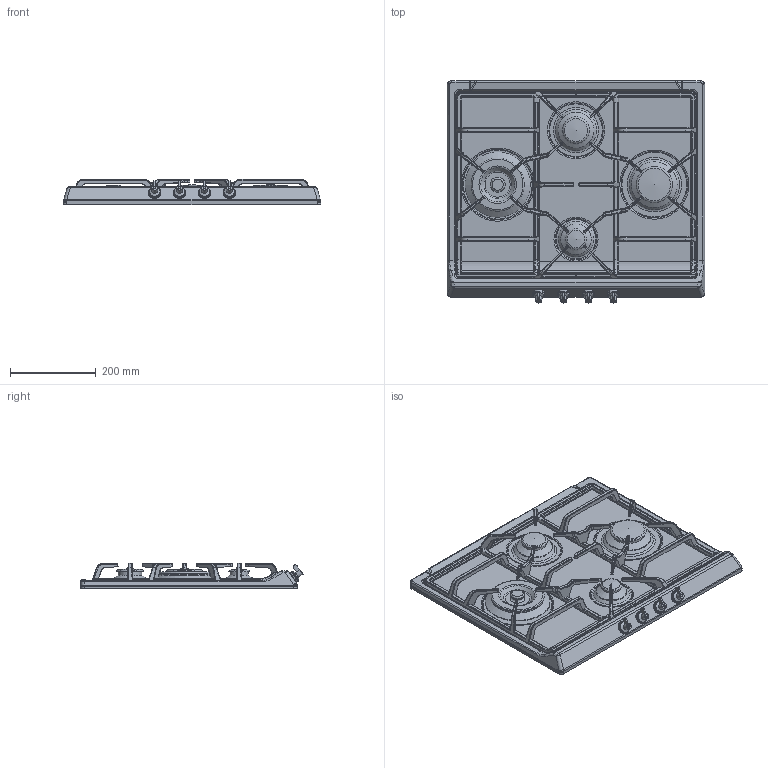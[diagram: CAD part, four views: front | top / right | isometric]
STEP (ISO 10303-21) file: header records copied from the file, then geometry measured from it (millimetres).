
FILE_DESCRIPTION(/* description */ (''),/* implementation_level */ '2;1');
FILE_NAME(/* name */ '1.stp',/* time_stamp */ '2012-05-07T15:38:15+02:00',/* author */ (''),/* organization */ (''),/* preprocessor_version */ 'ST-DEVELOPER v11',/* originating_system */ 'SIEMENS PLM Software NX 7.5',/* authorisation */ '');
FILE_SCHEMA (('AUTOMOTIVE_DESIGN { 1 0 10303 214 1 1 1 1 }'));
Products named in the file (1): FAVE573Enckg
Bounding box: 600 x 517.38 x 58.5 mm (x, y, z)
Volume: 5940612 mm3; surface area: 1021173 mm2
Topology: 19 solids, 19 shells, 2029 faces, 4913 edges, 2928 vertices
Faces by surface type: plane 630, bspline 602, cylinder 582, torus 91, cone 80, extrusion 30, sphere 14
Full cylindrical faces by diameter (mm): 5 x4, 6 x4, 8 x4, 13.5 x4, 25 x1, 27 x4, 29 x4, 33 x1, 42 x1, 43 x1, 55 x1, 56 x1, 70.5 x1, 77.5 x1, 78.5 x1, 83 x1, 106 x1, 111 x1, 113.5 x1, 122 x1, 152 x1
Entity records: 74590 total; most frequent: CARTESIAN_POINT 32811, ORIENTED_EDGE 9576, DIRECTION 7146, EDGE_CURVE 4788, VERTEX_POINT 2906, AXIS2_PLACEMENT_3D 2628, EDGE_LOOP 2150, ADVANCED_FACE 2029
